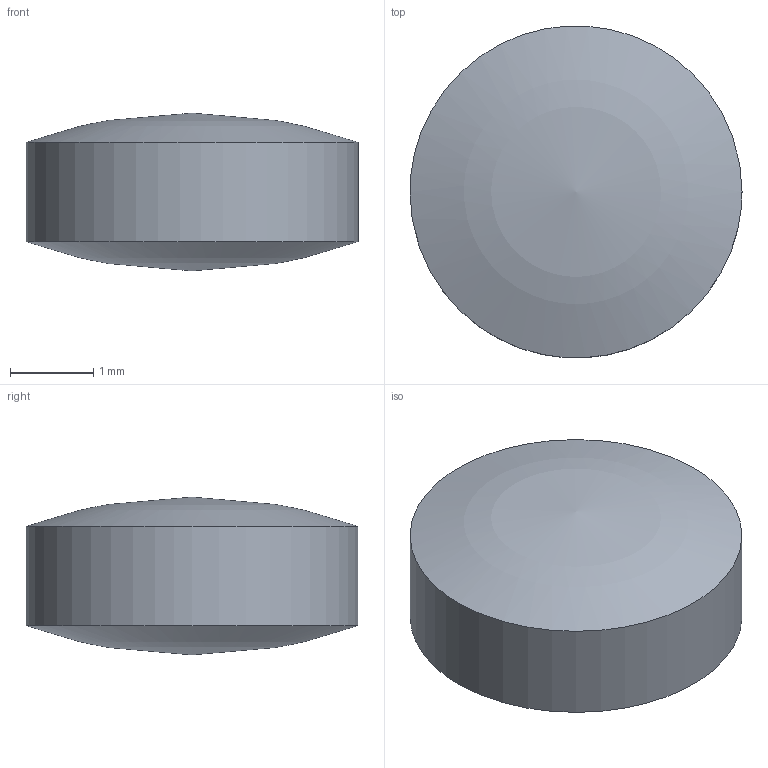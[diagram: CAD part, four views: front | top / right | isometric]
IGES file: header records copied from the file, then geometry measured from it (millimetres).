
Global section: file name: SLM-04B-06P; native system: Autodesk Inventor 2015; preprocessor: unknown; author: r.sato; date: 20161219.193026; units: millimetre
Bounding box: 4 x 3.99 x 1.9 mm (x, y, z)
Volume: 19.5 mm3; surface area: 40.9 mm2
Topology: 1 solids, 1 shells, 3 faces, 5 edges, 4 vertices
Faces by surface type: bspline 3
